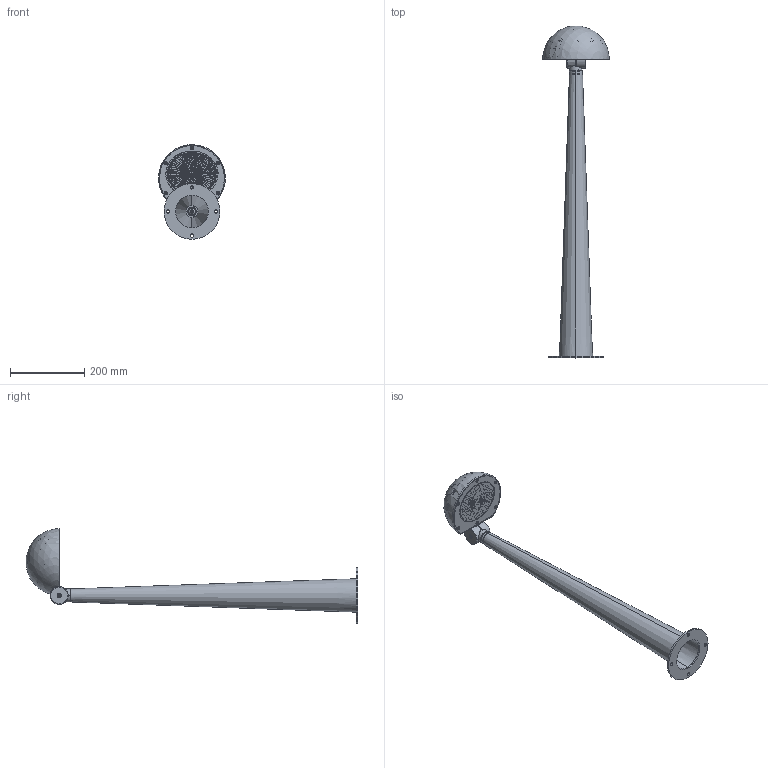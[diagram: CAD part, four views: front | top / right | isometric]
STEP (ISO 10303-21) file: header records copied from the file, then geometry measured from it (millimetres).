
FILE_DESCRIPTION((''),'2;1');
FILE_NAME('9AY-DANTOU_ASM','2024-09-19T',('Administrator'),(''),'CREO PARAMETRIC BY PTC INC, 2014500','CREO PARAMETRIC BY PTC INC, 2014500','');
FILE_SCHEMA(('CONFIG_CONTROL_DESIGN'));
Products named in the file (26): 9AY-MG; 9AY-DENGTI; 9AYTOUGUANGZHAO; ___B_W_O1_ANY-34127_ASM; SOCKET_HEAD_CAP_SCREW_ISO_ISO_4; ___B_W_O____B_W____X__________A_ASM; M4; SANREBAN; ____1-17486; ____-____2-81358; 9AV-9AY___B_W_O______W___-30115_ASM; 9AY-DIBAN; XINZHUANZHOU; 9AV-CHANJIEPIAN; PG9; 9AV-9AY-DANTOU_ASM; XINLJB_FGQ; 9AY-FGQ; XINLJB-01; M2-5-16; 20W-QUDONG; 9AYTOUGUANGZHAO-TOOLING; FENGWOWANG; XINQUDONG; GUDINGBAN; 9AY-DANTOU_ASM
Assembly tree (33 placements, depth 4):
  9AY-DANTOU_ASM
    ___B_W_O1_ANY-34127_ASM
      9AY-MG
      9AY-DENGTI
      9AYTOUGUANGZHAO
    ___B_W_O____B_W____X__________A_ASM
      SOCKET_HEAD_CAP_SCREW_ISO_ISO_4
    M4  x6
    SANREBAN
    9AV-9AY-DANTOU_ASM
      9AV-9AY___B_W_O______W___-30115_ASM
        ____1-17486
        ____-____2-81358
      9AY-DIBAN
      XINZHUANZHOU
      9AV-CHANJIEPIAN
      PG9
    XINLJB_FGQ
    9AY-FGQ
    XINLJB-01
    M2-5-16  x4
    20W-QUDONG
    9AYTOUGUANGZHAO-TOOLING
    FENGWOWANG
    XINQUDONG
    GUDINGBAN
Bounding box: 179.81 x 894.46 x 254.87 mm (x, y, z)
Volume: 916107.9 mm3; surface area: 751156.4 mm2
Topology: 29 solids, 29 shells, 2456 faces, 6130 edges, 3893 vertices
Faces by surface type: plane 1266, cylinder 439, cone 229, extrusion 213, bspline 211, torus 81, sphere 17
Entity records: 120955 total; most frequent: CARTESIAN_POINT 67124, ORIENTED_EDGE 11402, DIRECTION 10169, EDGE_CURVE 5701, VERTEX_POINT 3648, VECTOR 3601, LINE 3388, AXIS2_PLACEMENT_3D 3284
